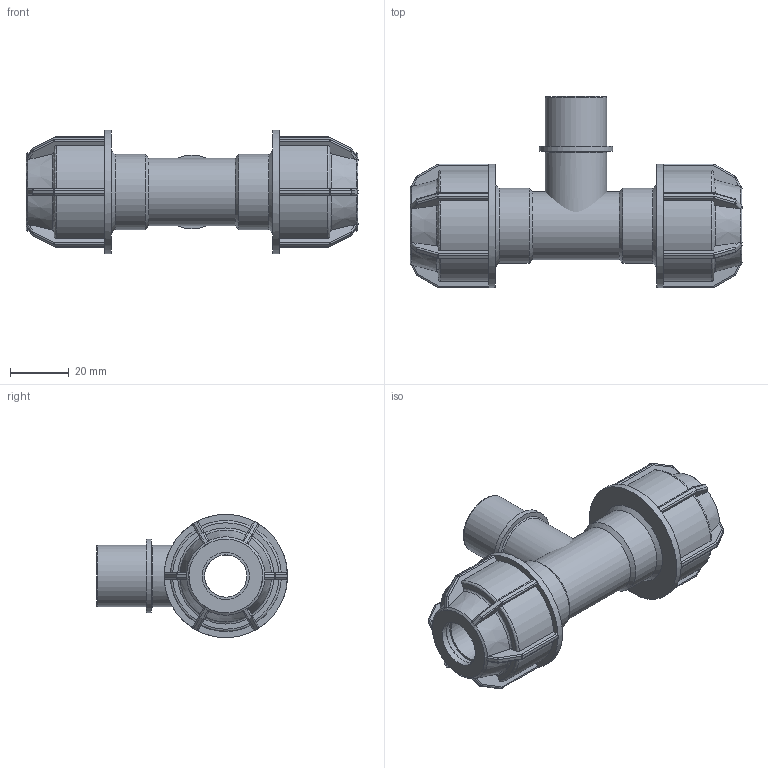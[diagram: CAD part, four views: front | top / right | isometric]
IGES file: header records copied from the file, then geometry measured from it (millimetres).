
Global section: file name: 148400016005.ipt; native system: Autodesk Inventor 2015; preprocessor: unknown; author: KIM; date: 20180409.131225; units: millimetre
Bounding box: 113 x 65 x 42 mm (x, y, z)
Volume: 69389.4 mm3; surface area: 26401 mm2
Topology: 2 solids, 2 shells, 417 faces, 1022 edges, 597 vertices
Faces by surface type: plane 199, cylinder 116, sphere 48, revolution 38, cone 16
Full cylindrical faces by diameter (mm): 20.955 x2, 23.04 x1, 25.146 x1, 25.6 x2, 42 x2
